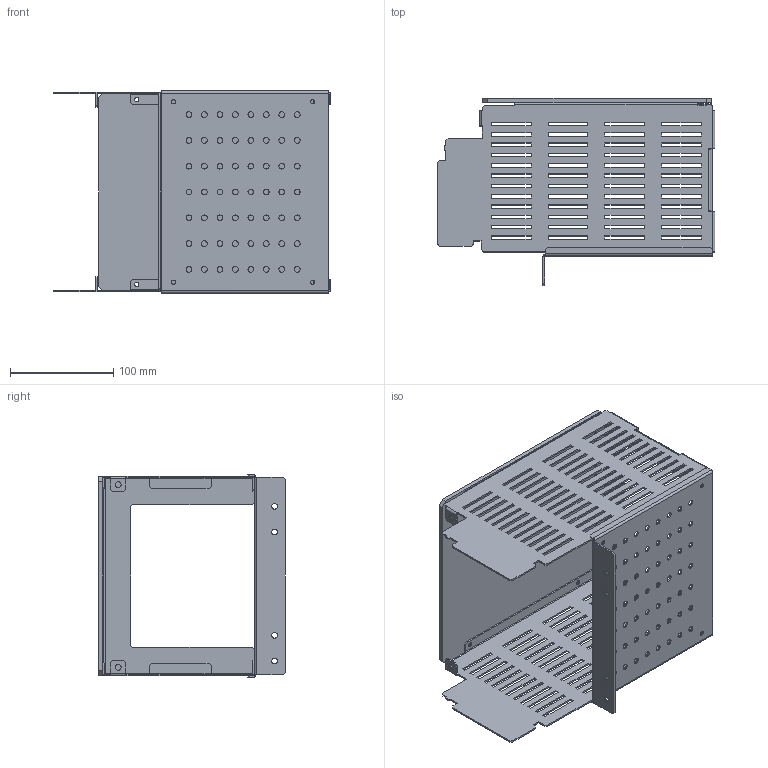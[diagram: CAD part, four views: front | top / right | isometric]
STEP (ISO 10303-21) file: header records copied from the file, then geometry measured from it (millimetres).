
FILE_DESCRIPTION(('CAx-IF Rec.Pracs.---Model Styling and Organization---1.2---2011-12-15','CAx-IF Rec.Pracs.---Geometric and Assembly Validation Properties---4.1---2014-06-16','CAx-IF Rec.Pracs.---PMI Polyline Presentation---2.0---2013-05-24'),'2;1');
FILE_NAME('R5M2W4MSB4.stp','2021-05-05T13:08:54+03:00',(''),(''),'STEP Interface 4.4 by CT CoreTechnologie','3D_Evolution4.4 by CT CoreTechnologie','');
FILE_SCHEMA(('AUTOMOTIVE_DESIGN { 1 0 10303 214 1 1 1 1 }'));
Length unit declared in the file: millimetre
Products named in the file (6): R5M2W4MSB4; RB.1409.00.00.0_-01; RB.1462.00.00.0_-02; RB.1461.00.00.0_-02; RB.1460.00.00.0_-02; RB.1409.00.00.0_-00
Assembly tree (5 placements, depth 2):
  R5M2W4MSB4
    RB.1409.00.00.0_-01
    RB.1462.00.00.0_-02
    RB.1461.00.00.0_-02
    RB.1460.00.00.0_-02
    RB.1409.00.00.0_-00
Bounding box: 269 x 181 x 196 mm (x, y, z)
Surface area: 346481 mm2 (no closed solid volume)
Topology: 0 solids, 5 shells, 810 faces, 2364 edges, 1564 vertices
Faces by surface type: plane 618, cylinder 192
Entity records: 27513 total; most frequent: CARTESIAN_POINT 4744, ORIENTED_EDGE 4728, DIRECTION 4380, EDGE_CURVE 2364, VECTOR 1980, LINE 1980, VERTEX_POINT 1564, AXIS2_PLACEMENT_3D 1200
